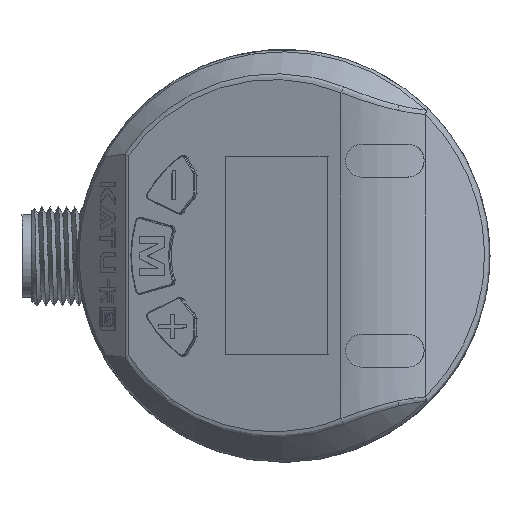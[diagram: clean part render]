
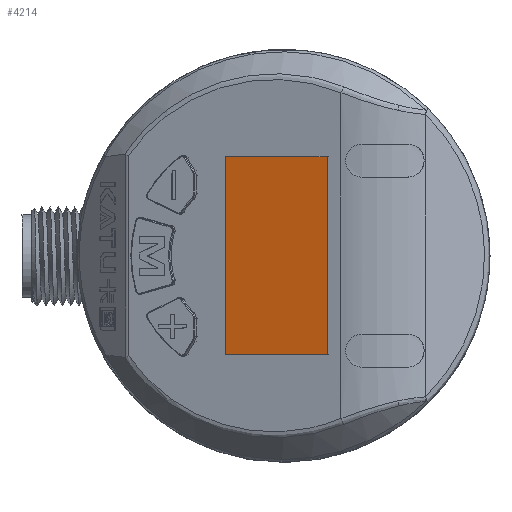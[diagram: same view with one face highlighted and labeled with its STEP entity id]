
A CAD part, top view. The second image highlights one B-rep face of the part: STEP entity #4214.
In plain terms, the highlighted planar face has unit normal (-0.342, 0, 0.94).
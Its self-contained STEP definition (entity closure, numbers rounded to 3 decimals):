
#1809=FACE_OUTER_BOUND('',#5717,.T.);
#2558=LINE('',#24839,#3314);
#2559=LINE('',#24842,#3315);
#2560=LINE('',#24844,#3316);
#2561=LINE('',#24846,#3317);
#3314=VECTOR('',#15257,1.);
#3315=VECTOR('',#15258,1.);
#3316=VECTOR('',#15259,1.);
#3317=VECTOR('',#15260,1.);
#4214=ADVANCED_FACE('',(#1809),#4559,.T.);
#4559=PLANE('',#12454);
#5717=EDGE_LOOP('',(#8538,#8539,#8540,#8541));
#8538=ORIENTED_EDGE('',*,*,#11023,.T.);
#8539=ORIENTED_EDGE('',*,*,#11024,.T.);
#8540=ORIENTED_EDGE('',*,*,#11025,.T.);
#8541=ORIENTED_EDGE('',*,*,#11026,.T.);
#9590=VERTEX_POINT('',#24840);
#9591=VERTEX_POINT('',#24841);
#9592=VERTEX_POINT('',#24843);
#9593=VERTEX_POINT('',#24845);
#11023=EDGE_CURVE('',#9590,#9591,#2558,.T.);
#11024=EDGE_CURVE('',#9591,#9592,#2559,.T.);
#11025=EDGE_CURVE('',#9592,#9593,#2560,.T.);
#11026=EDGE_CURVE('',#9593,#9590,#2561,.T.);
#12454=AXIS2_PLACEMENT_3D('',#24847,#15261,#15262);
#15257=DIRECTION('',(-0.94,0.,-0.342));
#15258=DIRECTION('',(0.,-1.,0.));
#15259=DIRECTION('',(0.94,0.,0.342));
#15260=DIRECTION('',(0.,1.,0.));
#15261=DIRECTION('',(-0.342,0.,0.94));
#15262=DIRECTION('',(-0.94,0.,-0.342));
#24839=CARTESIAN_POINT('',(45.306,12.006,121.2));
#24840=CARTESIAN_POINT('',(36.258,12.002,117.907));
#24841=CARTESIAN_POINT('',(23.939,11.997,113.423));
#24842=CARTESIAN_POINT('',(23.949,-15.759,113.427));
#24843=CARTESIAN_POINT('',(23.948,-11.997,113.426));
#24844=CARTESIAN_POINT('',(45.315,-11.988,121.203));
#24845=CARTESIAN_POINT('',(36.267,-11.992,117.91));
#24846=CARTESIAN_POINT('',(36.268,-15.753,117.91));
#24847=CARTESIAN_POINT('',(45.316,-15.75,121.204));
